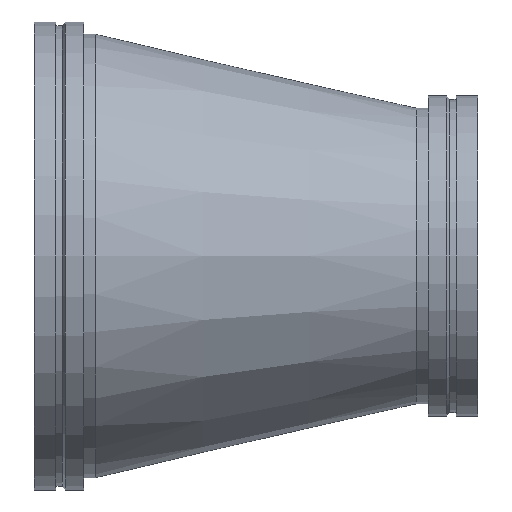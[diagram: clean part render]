
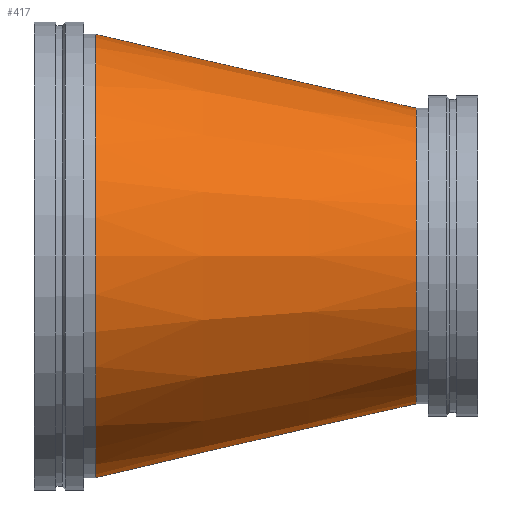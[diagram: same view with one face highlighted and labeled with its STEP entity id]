
A CAD part, front view. The second image highlights one B-rep face of the part: STEP entity #417.
In plain terms, the highlighted conical face has half-angle 12.995 degrees and reference radius 381 mm.
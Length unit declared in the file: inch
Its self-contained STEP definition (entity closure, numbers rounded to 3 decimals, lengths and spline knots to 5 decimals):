
#46=CONICAL_SURFACE('',#475,15.,0.227);
#54=LINE('',#739,#68);
#68=VECTOR('',#587,15.);
#101=FACE_OUTER_BOUND('',#124,.T.);
#124=EDGE_LOOP('',(#315,#316,#317,#318,#319,#320));
#155=CIRCLE('',#473,18.);
#156=CIRCLE('',#474,18.);
#157=CIRCLE('',#476,12.);
#158=CIRCLE('',#477,12.);
#195=VERTEX_POINT('',#729);
#196=VERTEX_POINT('',#730);
#197=VERTEX_POINT('',#735);
#198=VERTEX_POINT('',#736);
#239=EDGE_CURVE('',#195,#196,#155,.T.);
#240=EDGE_CURVE('',#196,#195,#156,.T.);
#242=EDGE_CURVE('',#197,#198,#157,.T.);
#243=EDGE_CURVE('',#198,#197,#158,.T.);
#244=EDGE_CURVE('',#198,#196,#54,.T.);
#315=ORIENTED_EDGE('',*,*,#242,.F.);
#316=ORIENTED_EDGE('',*,*,#243,.F.);
#317=ORIENTED_EDGE('',*,*,#244,.T.);
#318=ORIENTED_EDGE('',*,*,#240,.T.);
#319=ORIENTED_EDGE('',*,*,#239,.T.);
#320=ORIENTED_EDGE('',*,*,#244,.F.);
#417=ADVANCED_FACE('',(#101),#46,.T.);
#473=AXIS2_PLACEMENT_3D('',#731,#576,#577);
#474=AXIS2_PLACEMENT_3D('',#732,#578,#579);
#475=AXIS2_PLACEMENT_3D('',#734,#581,#582);
#476=AXIS2_PLACEMENT_3D('',#737,#583,#584);
#477=AXIS2_PLACEMENT_3D('',#738,#585,#586);
#576=DIRECTION('center_axis',(1.,0.,0.));
#577=DIRECTION('ref_axis',(0.,0.,-1.));
#578=DIRECTION('center_axis',(1.,0.,0.));
#579=DIRECTION('ref_axis',(0.,0.,-1.));
#581=DIRECTION('center_axis',(-1.,0.,0.));
#582=DIRECTION('ref_axis',(0.,1.,0.));
#583=DIRECTION('center_axis',(1.,0.,0.));
#584=DIRECTION('ref_axis',(0.,0.,-1.));
#585=DIRECTION('center_axis',(1.,0.,0.));
#586=DIRECTION('ref_axis',(0.,0.,-1.));
#587=DIRECTION('',(-0.974,-0.225,0.));
#729=CARTESIAN_POINT('',(5.,18.,0.));
#730=CARTESIAN_POINT('',(5.,-18.,0.));
#731=CARTESIAN_POINT('Origin',(5.,0.,0.));
#732=CARTESIAN_POINT('Origin',(5.,0.,0.));
#734=CARTESIAN_POINT('Origin',(18.,0.,0.));
#735=CARTESIAN_POINT('',(31.,12.,0.));
#736=CARTESIAN_POINT('',(31.,-12.,0.));
#737=CARTESIAN_POINT('Origin',(31.,0.,0.));
#738=CARTESIAN_POINT('Origin',(31.,0.,0.));
#739=CARTESIAN_POINT('',(18.,-15.,0.));
